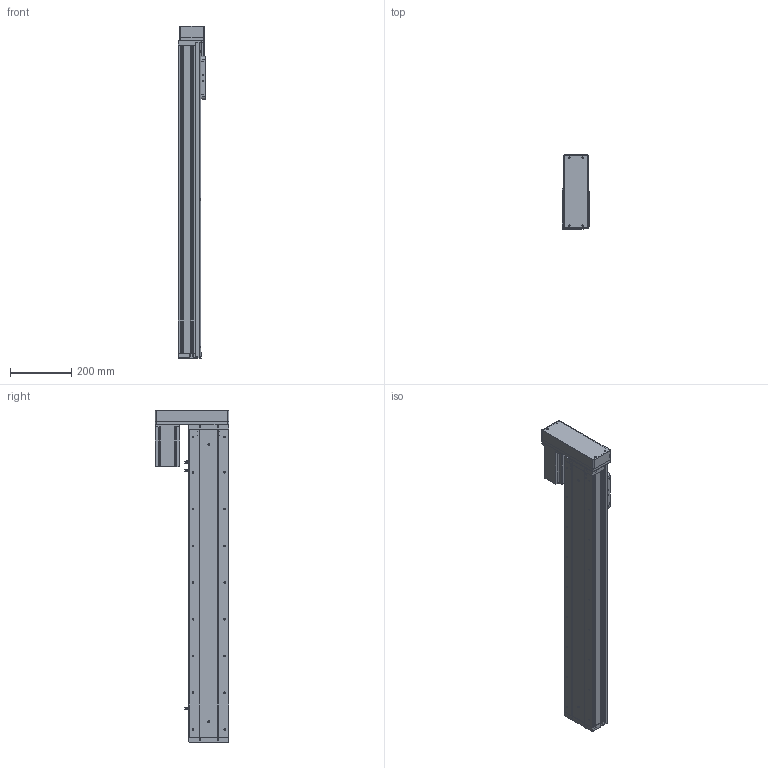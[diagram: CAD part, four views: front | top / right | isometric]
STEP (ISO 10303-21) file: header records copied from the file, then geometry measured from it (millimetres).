
FILE_DESCRIPTION (( 'STEP AP214' ), '1' );
FILE_NAME ('KSD130S-P2010-ML-CR-S800.STEP', '2019-09-24T06:26:03', ( '微软用户' ), ( '微软中国' ), 'SwSTEP 2.0', 'SolidWorks 2014', '' );
FILE_SCHEMA (( 'AUTOMOTIVE_DESIGN' ));
Length unit declared in the file: millimetre
Products named in the file (14): 130宽滚珠螺姆安装板1; 130宽模组保护罩左右折; 台达ECMA－C20807AS伺服电机; 130宽侧板全封闭-800行程; 130宽全封闭马达安装板丝杠; 130宽全封闭端盖丝杠; 130宽底板全封闭丝杠-800行程; KSD130S-P2010-ML-CR-S800; 130宽模组马达安装板连板左右折丝杆; 感应片130宽全封闭; U倰嫖萇EEㄜSX672; 130遵裔啣揤啣1; 130宽盖板全封闭-800行程; 130宽滚珠螺姆安装板1防护罩
Assembly tree (17 placements, depth 2):
  KSD130S-P2010-ML-CR-S800
    130宽底板全封闭丝杠-800行程
    130宽全封闭端盖丝杠
    130宽全封闭马达安装板丝杠
    130宽侧板全封闭-800行程  x2
    130宽滚珠螺姆安装板1
    130宽滚珠螺姆安装板1防护罩
    130宽盖板全封闭-800行程
    130遵裔啣揤啣1  x2
    U倰嫖萇EEㄜSX672  x3
    感应片130宽全封闭
    130宽模组马达安装板连板左右折丝杆
    台达ECMA－C20807AS伺服电机
    130宽模组保护罩左右折
Bounding box: 90 x 240 x 1084.5 mm (x, y, z)
Volume: 4047438 mm3; surface area: 1292892.9 mm2
Topology: 18 solids, 18 shells, 1514 faces, 4116 edges, 2581 vertices
Faces by surface type: cylinder 672, plane 611, cone 231
Entity records: 46122 total; most frequent: DIRECTION 7027, CARTESIAN_POINT 6889, ORIENTED_EDGE 6478, EDGE_CURVE 3239, AXIS2_PLACEMENT_3D 2535, VERTEX_POINT 2111, VECTOR 1957, LINE 1957
